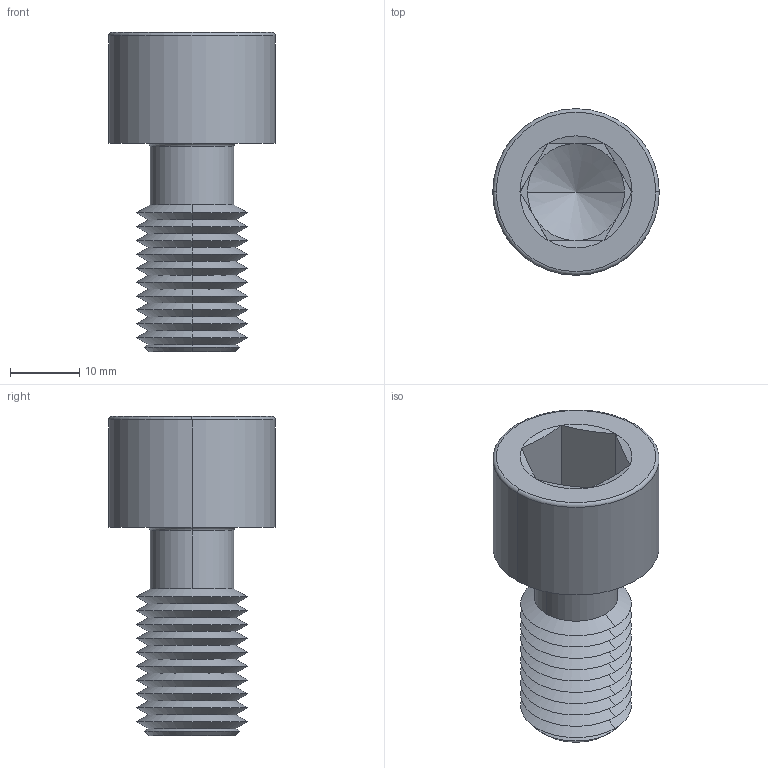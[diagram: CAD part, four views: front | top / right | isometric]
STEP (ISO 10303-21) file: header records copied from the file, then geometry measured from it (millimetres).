
FILE_DESCRIPTION (( 'STEP AP203' ), '1' );
FILE_NAME ('P0154.160-030-BL.step', '2024-06-17T11:37:44', ( '' ), ( '' ), 'SwSTEP 2.0', 'SolidWorks 2019', '' );
FILE_SCHEMA (( 'CONFIG_CONTROL_DESIGN' ));
Length unit declared in the file: millimetre
Products named in the file (1): P0154.160-030-BL
Bounding box: 24 x 24 x 46 mm (x, y, z)
Volume: 9017.2 mm3; surface area: 4998.4 mm2
Topology: 1 solids, 1 shells, 75 faces, 152 edges, 79 vertices
Faces by surface type: cone 52, plane 15, torus 4, cylinder 4
Entity records: 1991 total; most frequent: DIRECTION 372, CARTESIAN_POINT 335, ORIENTED_EDGE 300, AXIS2_PLACEMENT_3D 152, EDGE_CURVE 150, VERTEX_POINT 79, EDGE_LOOP 77, CIRCLE 76
